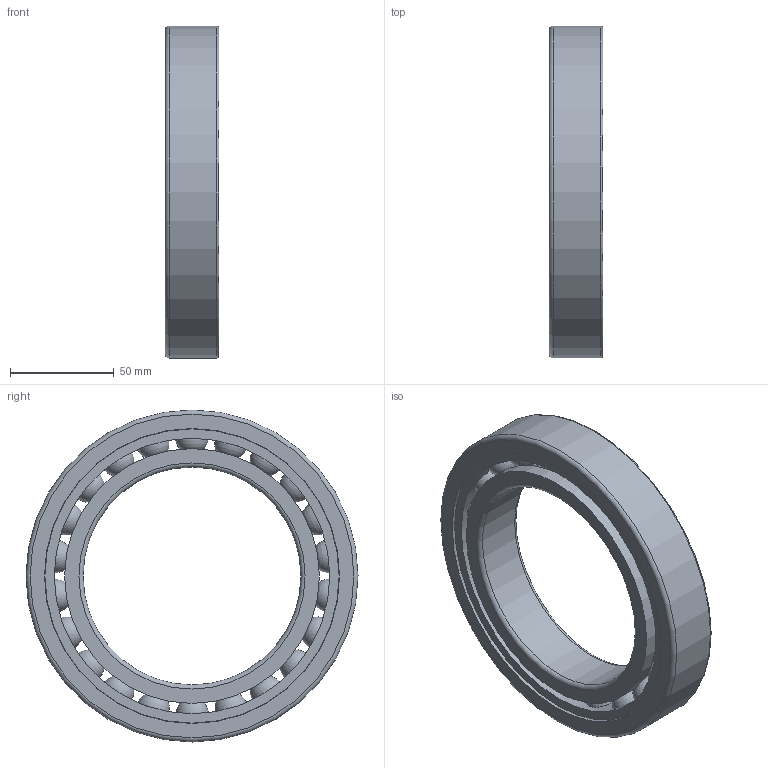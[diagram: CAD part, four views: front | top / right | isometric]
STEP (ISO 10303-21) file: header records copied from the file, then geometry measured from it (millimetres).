
FILE_DESCRIPTION(/* description */ (''),/* implementation_level */ '2;1');
FILE_NAME(/* name */ 'S_6021_TA.step',/* time_stamp */ '2013-03-06T14:46:11+01:00',/* author */ ('Marian'),/* organization */ ('GMN'),/* preprocessor_version */ 'ST-DEVELOPER v11',/* originating_system */ 'SIEMENS UGS NX 6.0',/* authorisation */ '');
FILE_SCHEMA (('CONFIG_CONTROL_DESIGN'));
Length unit declared in the file: millimetre
Products named in the file (1): S_6021_TA
Bounding box: 26 x 160 x 160 mm (x, y, z)
Volume: 227182 mm3; surface area: 94042.9 mm2
Topology: 25 solids, 25 shells, 64 faces, 170 edges, 110 vertices
Faces by surface type: cylinder 29, sphere 22, torus 6, plane 6, cone 1
Full cylindrical faces by diameter (mm): 16.075 x22, 105 x1, 122.8 x2, 132.795 x1, 141.8 x1, 142.2 x1, 160 x1
Entity records: 2126 total; most frequent: CARTESIAN_POINT 963, DIRECTION 170, FACE_BOUND 150, EDGE_LOOP 128, ORIENTED_EDGE 128, VERTEX_POINT 86, AXIS2_PLACEMENT_3D 85, EDGE_CURVE 64
